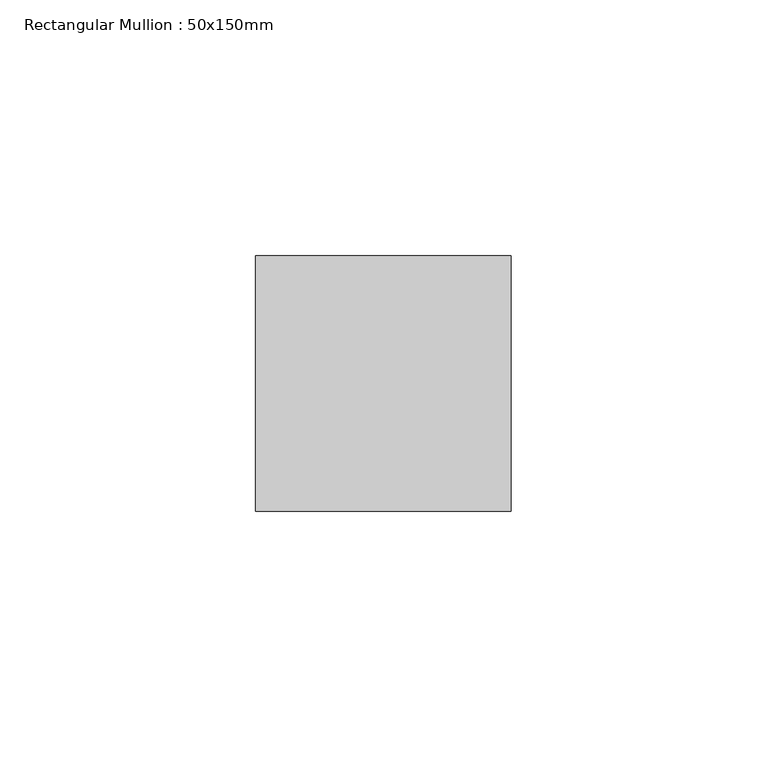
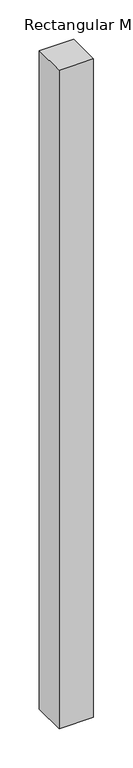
"""IFC4 building model written with IfcOpenShell, lengths in millimetres: member geometry, Rectangular Mullion : 50x150mm."""

from ifc_helpers import new_model, si_unit, frame, origin, place, context, project, spatial, polyline, outline, extrude, source, transform, mapped, element, save


def rectangular_mullion_50x150mm_f2d1fef4(model_context):
    return source(origin(), model_context, "Body", "SweptSolid", [
        extrude(outline(polyline([(25.0, 25.0), (25.0, -25.0), (-25.0, -25.0), (-25.0, 25.0), (25.0, 25.0)])), frame((0.0, 0.0, -1020.0536315), z_axis=(0.0, 0.0, 1.0), x_axis=(1.0, 0.0, 0.0)), (0.0, 0.0, 1.0), 1020.0536315),
    ])


if __name__ == "__main__":
    model = new_model("IFC4")
    model_context = context("Model", 3, world=origin())
    ifc_project = project(units=[si_unit("LENGTHUNIT", "METRE", prefix="MILLI")], contexts=[model_context])
    site = spatial("IfcSite", under=ifc_project)
    building = spatial("IfcBuilding", under=site)
    placement = place(None, origin())
    rectangular_mullion_50x150mm_shape = rectangular_mullion_50x150mm_f2d1fef4(model_context)
    element("IfcMember", 1, ObjectType="Rectangular Mullion : 50x150mm", at=placement, inside=building, context=model_context, shape_type="MappedRepresentation", body=[
        mapped(rectangular_mullion_50x150mm_shape, transform((0.0, 0.0, 0.0), x_axis=(1.0, 0.0, 0.0), y_axis=(0.0, 1.0, 0.0), z_axis=(0.0, 0.0, 1.0))),
    ])
    save(model, "model.ifc")
